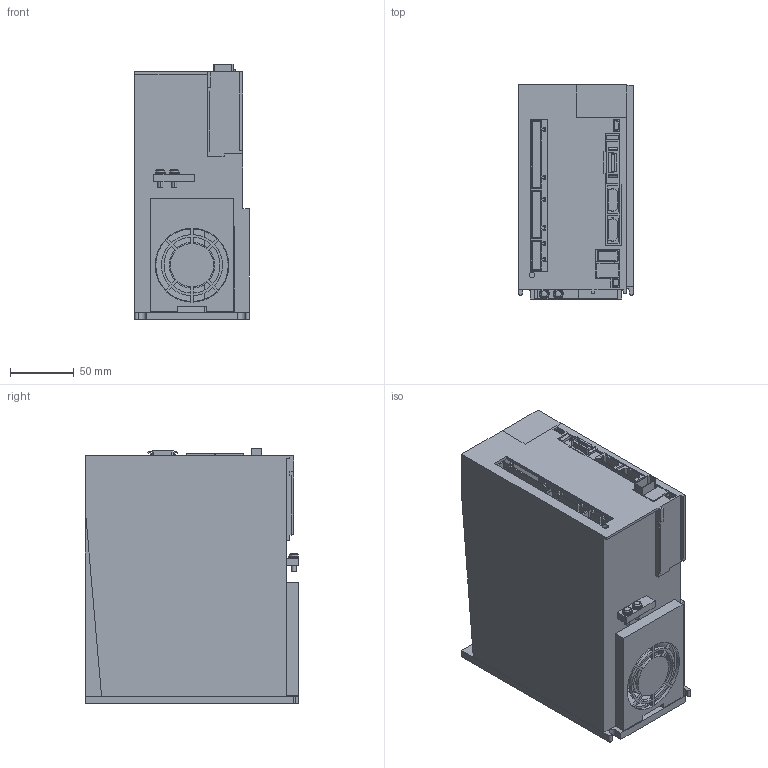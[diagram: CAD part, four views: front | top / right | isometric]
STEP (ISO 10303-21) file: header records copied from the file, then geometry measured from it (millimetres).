
FILE_DESCRIPTION (( 'STEP AP203' ), '1' );
FILE_NAME ('mr-j3-200b_a.step', '2009-12-01T07:58:22', ( ' ' ), ( '' ), 'SwSTEP 2.0', 'SolidWorks 2006303', '' );
FILE_SCHEMA (( 'CONFIG_CONTROL_DESIGN' ));
Length unit declared in the file: millimetre
Products named in the file (15): J3-LENZ__; J3-200-CNP3__; J3-200-CNP2__; J3B-CN1__; mr-j3-200b_a; SW-PW-P-NA-M4X12__; FAN60__; J3-200-CNP1__; J3B-CN5__; J3B-CN3__; J3B-CN4__; J3B-CN2__; J3-200-350-FANCOVER__; J3-200B-CASE__; J3-200-CHASSIS__
Assembly tree (16 placements, depth 2):
  mr-j3-200b_a
    J3-LENZ__
    J3-200-CNP3__
    J3-200-CNP1__
    FAN60__
    J3-200-CNP2__
    J3B-CN3__
    SW-PW-P-NA-M4X12__  x2
    J3B-CN4__
    J3B-CN1__  x2
    J3-200-CHASSIS__
    J3B-CN5__
    J3-200-350-FANCOVER__
    J3B-CN2__
    J3-200B-CASE__
Bounding box: 90 x 168 x 201 mm (x, y, z)
Volume: 416786.5 mm3; surface area: 284032.7 mm2
Topology: 18 solids, 18 shells, 476 faces, 1275 edges, 850 vertices
Faces by surface type: plane 389, cylinder 77, bspline 6, cone 4
Entity records: 15357 total; most frequent: CARTESIAN_POINT 2465, ORIENTED_EDGE 2358, DIRECTION 2235, EDGE_CURVE 1179, LINE 1027, VECTOR 1027, VERTEX_POINT 786, AXIS2_PLACEMENT_3D 604
